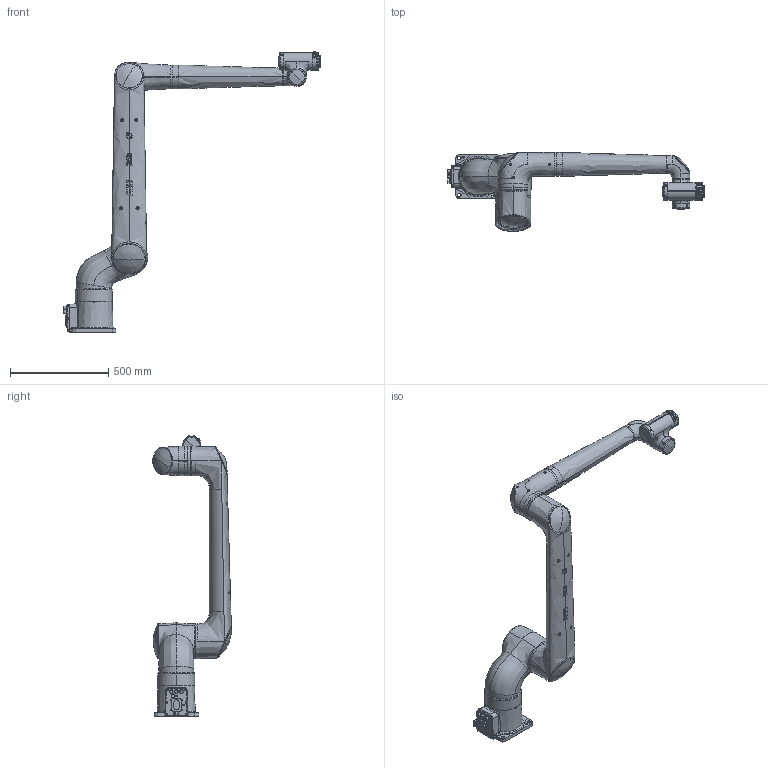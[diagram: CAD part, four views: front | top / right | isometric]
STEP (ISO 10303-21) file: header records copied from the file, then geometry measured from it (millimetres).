
FILE_DESCRIPTION (( 'STEP AP214' ), '1' );
FILE_NAME ('CRB1920_16kg-1960_OmniCore_rev00_Assembly.STEP', '2026-03-06T03:28:29', ( '' ), ( '' ), 'SwSTEP 2.0', 'SolidWorks 2022', '' );
FILE_SCHEMA (( 'AUTOMOTIVE_DESIGN' ));
Length unit declared in the file: millimetre
Products named in the file (8): CRB1920_16kg-1960_OmniCore_rev00_Link1_CAD; CRB1920_16kg-1960_OmniCore_rev00_Link2_CAD; CRB1920_16kg-1960_OmniCore_rev00_Link3_CAD; CRB1920_16kg-1960_OmniCore_rev00_Link4_CAD; CRB1920_16kg-1960_OmniCore_rev00_Link5_CAD; CRB1920_16kg-1960_OmniCore_rev00_Link0_CAD; CRB1920_16kg-1960_OmniCore_rev00_Link6_CAD; CRB1920_16kg-1960_OmniCore_rev00_Assembly
Assembly tree (7 placements, depth 2):
  CRB1920_16kg-1960_OmniCore_rev00_Assembly
    CRB1920_16kg-1960_OmniCore_rev00_Link0_CAD
    CRB1920_16kg-1960_OmniCore_rev00_Link1_CAD
    CRB1920_16kg-1960_OmniCore_rev00_Link2_CAD
    CRB1920_16kg-1960_OmniCore_rev00_Link3_CAD
    CRB1920_16kg-1960_OmniCore_rev00_Link4_CAD
    CRB1920_16kg-1960_OmniCore_rev00_Link5_CAD
    CRB1920_16kg-1960_OmniCore_rev00_Link6_CAD
Bounding box: 1311 x 402.1 x 1431.6 mm (x, y, z)
Volume: 47553432.5 mm3; surface area: 1662784.8 mm2
Topology: 7 solids, 7 shells, 2477 faces, 6357 edges, 4101 vertices
Faces by surface type: bspline 1177, plane 603, cylinder 381, cone 243, torus 69, sphere 4
Entity records: 246838 total; most frequent: CARTESIAN_POINT 194286, ORIENTED_EDGE 12618, DIRECTION 6433, EDGE_CURVE 6309, VERTEX_POINT 4101, B_SPLINE_CURVE_WITH_KNOTS 3565, EDGE_LOOP 2750, FACE_OUTER_BOUND 2477
